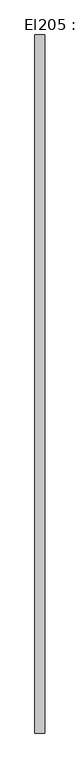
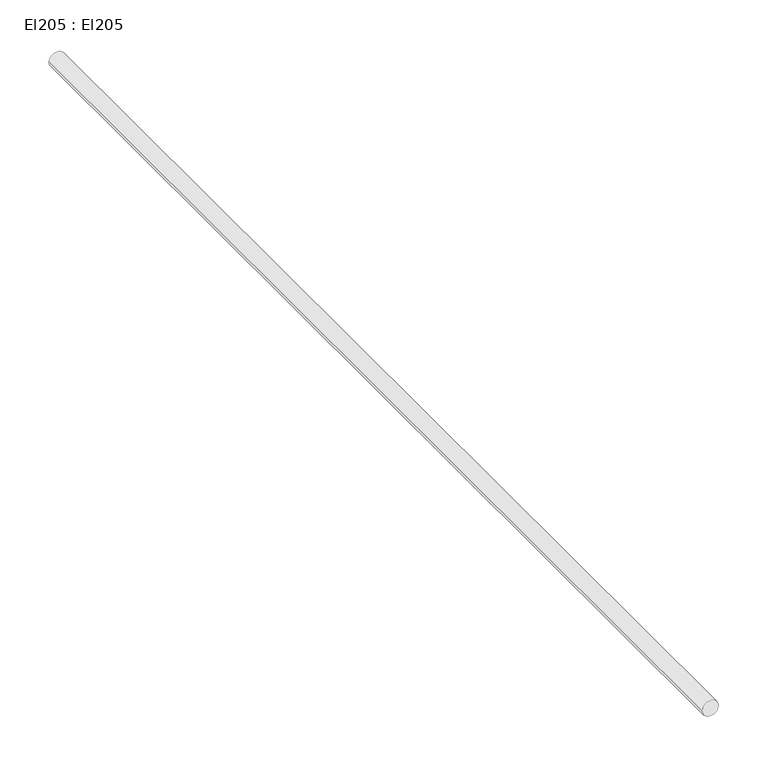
"""IFC4 building model written with IfcOpenShell, lengths in millimetres: cable carrier segment geometry, El205 : El205."""

from ifc_helpers import new_model, si_unit, point, frame, frame_2d, origin, place, context, project, spatial, circle_curve, trimmed, segment, composite_curve, outline, extrude, source, transform, mapped, element, save


def el205_el205_85d919dc(model_context):
    return source(origin(), model_context, "Body", "SweptSolid", [
        extrude(outline(composite_curve([segment(trimmed(circle_curve(frame_2d((2950.0, 2595.0)), 9.5), [point((2950.0, 2585.5))], [point((2950.0, 2604.5))], False, "CARTESIAN"), True, "CONTINUOUS"), segment(trimmed(circle_curve(frame_2d((2950.0, 2595.0)), 9.5), [point((2950.0, 2604.5))], [point((2950.0, 2585.5))], False, "CARTESIAN"), True, "CONTINUOUS")], self_intersect=False)), frame((0.0, 23833.8, 0.0), z_axis=(0.0, 1.0, 0.0), x_axis=(0.0, 0.0, 1.0)), (0.0, 0.0, 1.0), 1325.0),
    ])


if __name__ == "__main__":
    model = new_model("IFC4")
    model_context = context("Model", 3, world=origin())
    ifc_project = project(units=[si_unit("LENGTHUNIT", "METRE", prefix="MILLI")], contexts=[model_context])
    site = spatial("IfcSite", under=ifc_project)
    building = spatial("IfcBuilding", under=site)
    placement = place(None, origin())
    el205_el205_shape = el205_el205_85d919dc(model_context)
    element("IfcCableCarrierSegment", 1, ObjectType="El205 : El205", at=placement, inside=building, context=model_context, shape_type="MappedRepresentation", body=[
        mapped(el205_el205_shape, transform((0.0, 0.0, 0.0), x_axis=(1.0, 0.0, 0.0), y_axis=(0.0, 1.0, 0.0), z_axis=(0.0, 0.0, 1.0))),
    ])
    save(model, "model.ifc")
